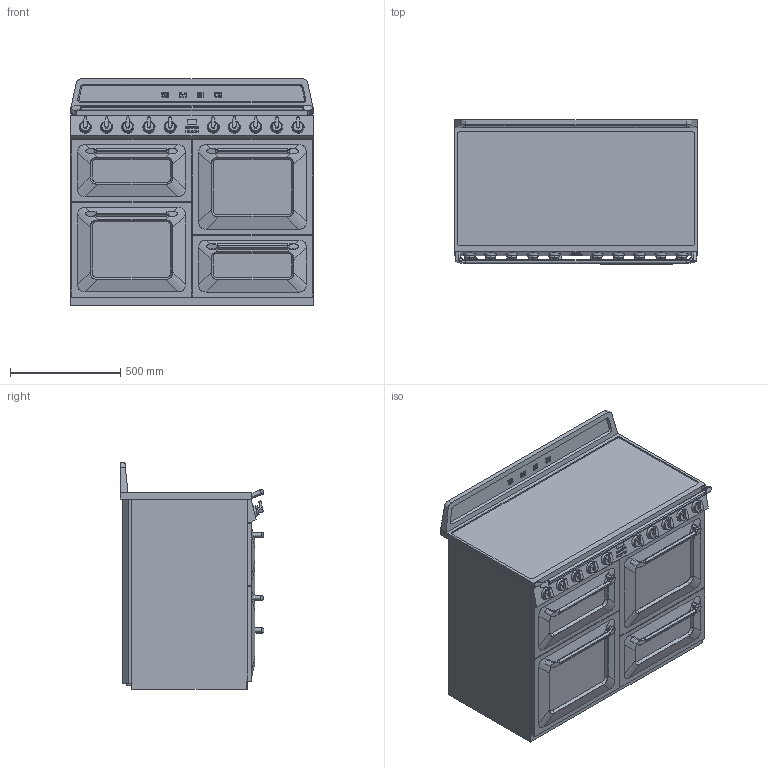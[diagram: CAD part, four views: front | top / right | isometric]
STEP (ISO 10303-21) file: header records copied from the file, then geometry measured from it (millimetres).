
FILE_DESCRIPTION(/* description */ (''),/* implementation_level */ '2;1');
FILE_NAME(/* name */ 'TR4110IX.stp',/* time_stamp */ '2017-11-06T11:49:48+01:00',/* author */ (''),/* organization */ (''),/* preprocessor_version */ 'ST-DEVELOPER v16',/* originating_system */ 'SIEMENS PLM Software NX 11.0',/* authorisation */ '');
FILE_SCHEMA (('AUTOMOTIVE_DESIGN { 1 0 10303 214 3 1 1 1 }'));
Length unit declared in the file: millimetre
Products named in the file (1): grasBE501F6Bzr5k
Bounding box: 1100 x 651.73 x 1024.8 mm (x, y, z)
Volume: 592511586.7 mm3; surface area: 11880653.9 mm2
Topology: 60 solids, 62 shells, 1060 faces, 2526 edges, 1646 vertices
Faces by surface type: plane 504, extrusion 224, cylinder 212, bspline 80, cone 30, sphere 5, torus 5
Full cylindrical faces by diameter (mm): 3.9 x5, 5 x18, 8 x5, 9 x5, 20 x11, 43.084 x10
Entity records: 36880 total; most frequent: CARTESIAN_POINT 13068, ORIENTED_EDGE 4872, DIRECTION 4308, EDGE_CURVE 2437, VERTEX_POINT 1636, VECTOR 1476, AXIS2_PLACEMENT_3D 1416, LINE 1252
